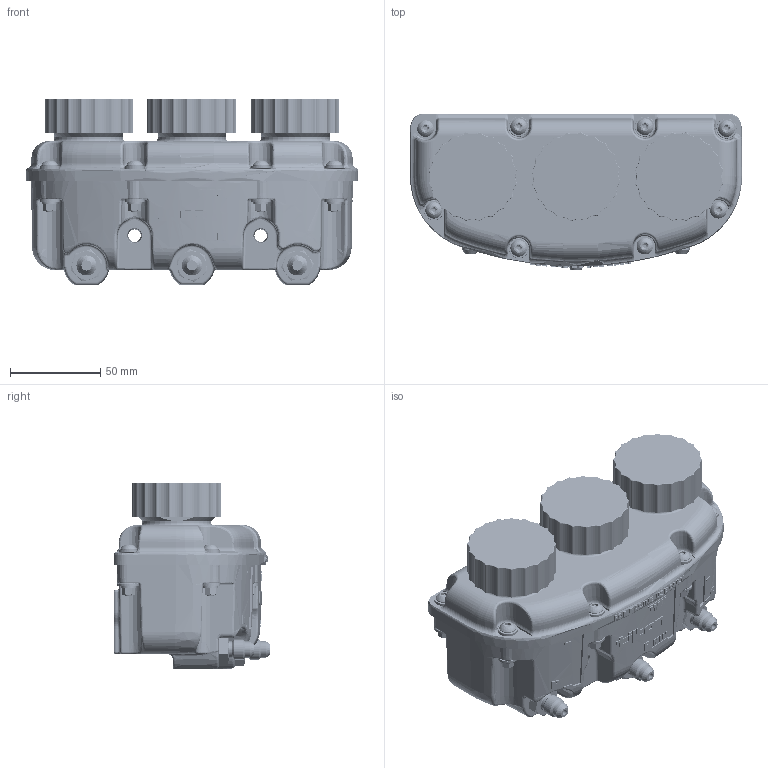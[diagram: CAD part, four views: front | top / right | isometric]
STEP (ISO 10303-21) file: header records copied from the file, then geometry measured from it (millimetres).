
FILE_DESCRIPTION(/* description */ ('Unknown'),/* implementation_level */ '2;1');
FILE_NAME(/* name */ '72-578 TILTON RESERVOIR SIMPLE',/* time_stamp */ '2017-06-21T08:05:19-07:00',/* author */ ('Unknown'),/* organization */ ('Unknown'),/* preprocessor_version */ 'ST-DEVELOPER v16.7',/* originating_system */ 'DEX',/* authorisation */ $);
FILE_SCHEMA (('AUTOMOTIVE_DESIGN {1 0 10303 214 3 1 1}'));
Products named in the file (1): 72-578 TILTON RESERVOIR SIMPLE
Bounding box: 183.87 x 86.81 x 103.56 mm (x, y, z)
Volume: 839212.4 mm3; surface area: 129886.5 mm2
Topology: 2 solids, 5 shells, 3095 faces, 7801 edges, 4801 vertices
Faces by surface type: cylinder 962, cone 723, plane 710, bspline 385, torus 271, sphere 44
Full cylindrical faces by diameter (mm): 3.175 x3, 4.178 x216, 4.826 x208, 5.08 x8, 5.105 x8, 5.156 x16, 8.128 x16, 9.017 x6, 9.169 x8, 9.271 x3, 11.113 x3, 11.125 x16, 13.716 x3, 38.1 x3
Entity records: 111847 total; most frequent: CARTESIAN_POINT 28808, DIRECTION 12235, ORIENTED_EDGE 11856, EDGE_CURVE 5928, AXIS2_PLACEMENT_3D 5418, EDGE_LOOP 4330, FACE_BOUND 4330, VERTEX_POINT 4052
